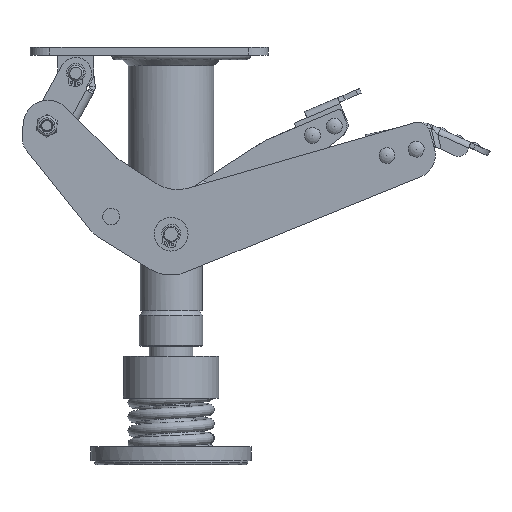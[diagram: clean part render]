
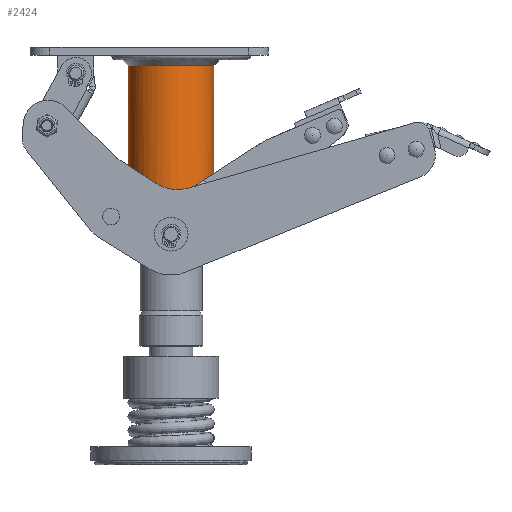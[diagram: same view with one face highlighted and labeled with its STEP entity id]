
A CAD part, front view. The second image highlights one B-rep face of the part: STEP entity #2424.
In plain terms, the highlighted cylindrical face has radius 21.5 mm (diameter 43 mm), a full revolution.
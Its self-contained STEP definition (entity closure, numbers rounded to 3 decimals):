
#204=B_SPLINE_CURVE_WITH_KNOTS('',3,(#15389,#15390,#15391,#15392,#15393,
#15394,#15395,#15396,#15397,#15398,#15399,#15400,#15401,#15402,#15403,#15404,
#15405,#15406,#15407,#15408,#15409,#15410,#15411,#15412,#15413,#15414,#15415,
#15416),.UNSPECIFIED.,.T.,.F.,(2,2,2,2,2,2,2,2,2,2,2,2,2,2,2,2),(-0.125,
0.,0.063,0.125,0.25,0.313,0.375,0.438,0.5,0.625,0.688,0.75,0.813,0.875,
1.,1.063),.UNSPECIFIED.);
#2424=ADVANCED_FACE('',(#3384,#3385),#3103,.T.);
#3103=CYLINDRICAL_SURFACE('',#10927,21.5);
#3384=FACE_BOUND('',#3953,.T.);
#3385=FACE_BOUND('',#3954,.T.);
#3953=EDGE_LOOP('',(#4990));
#3954=EDGE_LOOP('',(#4991));
#4990=ORIENTED_EDGE('',*,*,#8909,.F.);
#4991=ORIENTED_EDGE('',*,*,#8910,.F.);
#7888=VERTEX_POINT('',#15388);
#7889=VERTEX_POINT('',#15417);
#8909=EDGE_CURVE('',#7888,#7888,#10336,.T.);
#8910=EDGE_CURVE('',#7889,#7889,#204,.T.);
#10336=CIRCLE('',#10926,21.5);
#10926=AXIS2_PLACEMENT_3D('',#15387,#12239,#12240);
#10927=AXIS2_PLACEMENT_3D('',#15418,#12241,#12242);
#12239=DIRECTION('',(0.,0.,-1.));
#12240=DIRECTION('',(0.,-1.,0.));
#12241=DIRECTION('',(0.,0.,-1.));
#12242=DIRECTION('',(0.,1.,0.));
#15387=CARTESIAN_POINT('',(0.,0.,-90.585));
#15388=CARTESIAN_POINT('',(0.,-21.5,-90.585));
#15389=CARTESIAN_POINT('',(-5.682,-21.5,-19.885));
#15390=CARTESIAN_POINT('',(2.841,-21.5,-19.885));
#15391=CARTESIAN_POINT('',(5.628,-20.941,-19.885));
#15392=CARTESIAN_POINT('',(10.836,-18.782,-19.885));
#15393=CARTESIAN_POINT('',(13.221,-17.185,-19.885));
#15394=CARTESIAN_POINT('',(19.171,-11.234,-19.885));
#15395=CARTESIAN_POINT('',(21.497,-5.62,-19.885));
#15396=CARTESIAN_POINT('',(21.501,2.793,-19.885));
#15397=CARTESIAN_POINT('',(20.945,5.611,-19.885));
#15398=CARTESIAN_POINT('',(18.793,10.817,-19.885));
#15399=CARTESIAN_POINT('',(17.216,13.187,-19.885));
#15400=CARTESIAN_POINT('',(13.205,17.203,-19.885));
#15401=CARTESIAN_POINT('',(10.838,18.781,-19.885));
#15402=CARTESIAN_POINT('',(5.627,20.941,-19.885));
#15403=CARTESIAN_POINT('',(2.814,21.499,-19.885));
#15404=CARTESIAN_POINT('',(-5.605,21.502,-19.885));
#15405=CARTESIAN_POINT('',(-11.219,19.178,-19.885));
#15406=CARTESIAN_POINT('',(-17.172,13.237,-19.885));
#15407=CARTESIAN_POINT('',(-18.774,10.85,-19.885));
#15408=CARTESIAN_POINT('',(-20.934,5.651,-19.885));
#15409=CARTESIAN_POINT('',(-21.497,2.857,-19.885));
#15410=CARTESIAN_POINT('',(-21.503,-2.813,-19.885));
#15411=CARTESIAN_POINT('',(-20.948,-5.605,-19.885));
#15412=CARTESIAN_POINT('',(-18.791,-10.822,-19.885));
#15413=CARTESIAN_POINT('',(-17.198,-13.204,-19.886));
#15414=CARTESIAN_POINT('',(-11.248,-19.164,-19.884));
#15415=CARTESIAN_POINT('',(-5.682,-21.5,-19.885));
#15416=CARTESIAN_POINT('',(2.841,-21.5,-19.885));
#15417=CARTESIAN_POINT('',(0.,-21.5,-19.885));
#15418=CARTESIAN_POINT('',(0.,0.,-104.394));
